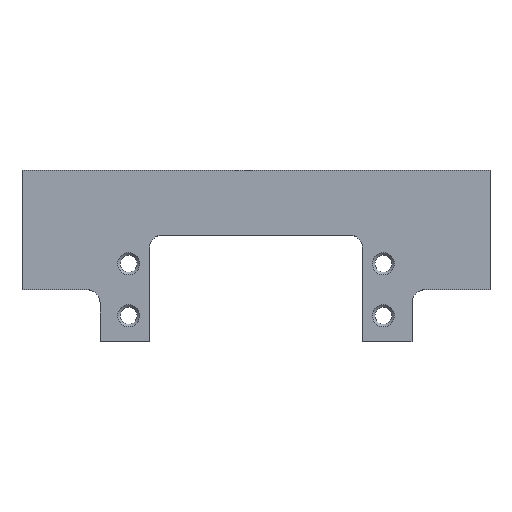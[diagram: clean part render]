
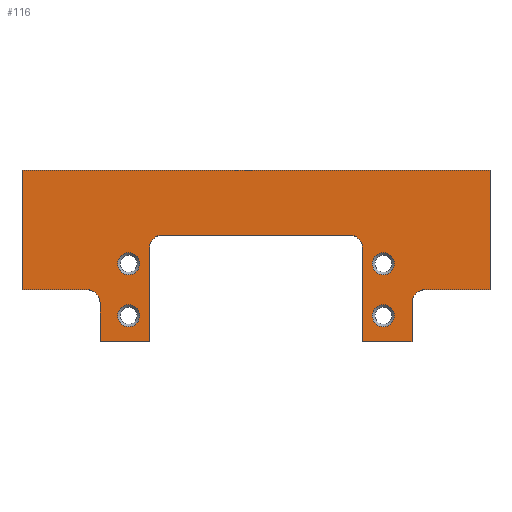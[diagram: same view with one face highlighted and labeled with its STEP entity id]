
A CAD part, top view. The second image highlights one B-rep face of the part: STEP entity #116.
In plain terms, the highlighted planar face has unit normal (0, 0, 1).
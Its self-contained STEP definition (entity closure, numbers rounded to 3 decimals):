
#116=ADVANCED_FACE('',(#374,#376,#378,#380,#382),#384,.T.);
#374=FACE_BOUND('',#375,.T.);
#375=EDGE_LOOP('',(#589,#590,#591,#592,#593,#594,#595,#596,#597,#598,#599,#600,#601,
#602,#603,#604));
#376=FACE_BOUND('',#377,.T.);
#377=EDGE_LOOP('',(#605));
#378=FACE_BOUND('',#379,.T.);
#379=EDGE_LOOP('',(#606));
#380=FACE_BOUND('',#381,.T.);
#381=EDGE_LOOP('',(#607));
#382=FACE_BOUND('',#383,.T.);
#383=EDGE_LOOP('',(#608));
#384=PLANE('',#385);
#385=AXIS2_PLACEMENT_3D('',#386,#387,#388);
#386=CARTESIAN_POINT('',(0.,0.,10.));
#387=DIRECTION('',(0.,0.,1.));
#388=DIRECTION('',(-1.,0.,0.));
#589=ORIENTED_EDGE('',*,*,#707,.F.);
#590=ORIENTED_EDGE('',*,*,#708,.T.);
#591=ORIENTED_EDGE('',*,*,#709,.F.);
#592=ORIENTED_EDGE('',*,*,#710,.T.);
#593=ORIENTED_EDGE('',*,*,#711,.T.);
#594=ORIENTED_EDGE('',*,*,#712,.T.);
#595=ORIENTED_EDGE('',*,*,#713,.F.);
#596=ORIENTED_EDGE('',*,*,#676,.T.);
#597=ORIENTED_EDGE('',*,*,#706,.T.);
#598=ORIENTED_EDGE('',*,*,#680,.T.);
#599=ORIENTED_EDGE('',*,*,#714,.T.);
#600=ORIENTED_EDGE('',*,*,#685,.T.);
#601=ORIENTED_EDGE('',*,*,#715,.F.);
#602=ORIENTED_EDGE('',*,*,#716,.T.);
#603=ORIENTED_EDGE('',*,*,#717,.T.);
#604=ORIENTED_EDGE('',*,*,#718,.T.);
#605=ORIENTED_EDGE('',*,*,#719,.T.);
#606=ORIENTED_EDGE('',*,*,#720,.T.);
#607=ORIENTED_EDGE('',*,*,#721,.T.);
#608=ORIENTED_EDGE('',*,*,#722,.T.);
#676=EDGE_CURVE('',#738,#742,#744,.T.);
#680=EDGE_CURVE('',#752,#750,#753,.T.);
#685=EDGE_CURVE('',#762,#760,#763,.T.);
#706=EDGE_CURVE('',#742,#752,#800,.T.);
#707=EDGE_CURVE('',#801,#802,#803,.F.);
#708=EDGE_CURVE('',#801,#804,#805,.T.);
#709=EDGE_CURVE('',#806,#804,#807,.F.);
#710=EDGE_CURVE('',#806,#808,#809,.T.);
#711=EDGE_CURVE('',#808,#810,#811,.T.);
#712=EDGE_CURVE('',#810,#812,#813,.T.);
#713=EDGE_CURVE('',#738,#812,#814,.F.);
#714=EDGE_CURVE('',#750,#762,#815,.T.);
#715=EDGE_CURVE('',#816,#760,#817,.F.);
#716=EDGE_CURVE('',#816,#818,#819,.T.);
#717=EDGE_CURVE('',#818,#820,#821,.T.);
#718=EDGE_CURVE('',#820,#802,#822,.T.);
#719=EDGE_CURVE('',#823,#823,#824,.F.);
#720=EDGE_CURVE('',#825,#825,#826,.F.);
#721=EDGE_CURVE('',#827,#827,#828,.F.);
#722=EDGE_CURVE('',#829,#829,#830,.F.);
#738=VERTEX_POINT('',#850);
#742=VERTEX_POINT('',#858);
#744=LINE('',#862,#863);
#750=VERTEX_POINT('',#875);
#752=VERTEX_POINT('',#879);
#753=LINE('',#880,#881);
#760=VERTEX_POINT('',#897);
#762=VERTEX_POINT('',#901);
#763=LINE('',#902,#903);
#800=LINE('',#990,#991);
#801=VERTEX_POINT('',#993);
#802=VERTEX_POINT('',#994);
#803=CIRCLE('',#995,2.5);
#804=VERTEX_POINT('',#999);
#805=LINE('',#1000,#1001);
#806=VERTEX_POINT('',#1003);
#807=CIRCLE('',#1004,2.5);
#808=VERTEX_POINT('',#1008);
#809=LINE('',#1009,#1010);
#810=VERTEX_POINT('',#1012);
#811=LINE('',#1013,#1014);
#812=VERTEX_POINT('',#1016);
#813=LINE('',#1017,#1018);
#814=CIRCLE('',#1020,2.5);
#815=LINE('',#1024,#1025);
#816=VERTEX_POINT('',#1027);
#817=CIRCLE('',#1028,2.5);
#818=VERTEX_POINT('',#1032);
#819=LINE('',#1033,#1034);
#820=VERTEX_POINT('',#1036);
#821=LINE('',#1037,#1038);
#822=LINE('',#1040,#1041);
#823=VERTEX_POINT('',#1043);
#824=CIRCLE('',#1044,2.121);
#825=VERTEX_POINT('',#1048);
#826=CIRCLE('',#1049,2.121);
#827=VERTEX_POINT('',#1053);
#828=CIRCLE('',#1054,2.121);
#829=VERTEX_POINT('',#1058);
#830=CIRCLE('',#1059,2.121);
#850=CARTESIAN_POINT('',(32.5,0.,10.));
#858=CARTESIAN_POINT('',(45.,0.,10.));
#862=CARTESIAN_POINT('',(32.5,0.,10.));
#863=VECTOR('',#864,1.);
#864=DIRECTION('',(1.,0.,0.));
#875=CARTESIAN_POINT('',(-45.,23.,10.));
#879=CARTESIAN_POINT('',(45.,23.,10.));
#880=CARTESIAN_POINT('',(45.,23.,10.));
#881=VECTOR('',#882,1.);
#882=DIRECTION('',(-1.,0.,0.));
#897=CARTESIAN_POINT('',(-32.5,0.,10.));
#901=CARTESIAN_POINT('',(-45.,0.,10.));
#902=CARTESIAN_POINT('',(-45.,0.,10.));
#903=VECTOR('',#904,1.);
#904=DIRECTION('',(1.,0.,0.));
#990=CARTESIAN_POINT('',(45.,0.,10.));
#991=VECTOR('',#992,1.);
#992=DIRECTION('',(0.,1.,0.));
#993=CARTESIAN_POINT('',(-18.,10.5,10.));
#994=CARTESIAN_POINT('',(-20.5,8.,10.));
#995=AXIS2_PLACEMENT_3D('',#996,#997,#998);
#996=CARTESIAN_POINT('',(-18.,8.,10.));
#997=DIRECTION('',(0.,0.,-1.));
#998=DIRECTION('',(-1.,0.,0.));
#999=CARTESIAN_POINT('',(18.,10.5,10.));
#1000=CARTESIAN_POINT('',(-18.,10.5,10.));
#1001=VECTOR('',#1002,1.);
#1002=DIRECTION('',(1.,0.,0.));
#1003=CARTESIAN_POINT('',(20.5,8.,10.));
#1004=AXIS2_PLACEMENT_3D('',#1005,#1006,#1007);
#1005=CARTESIAN_POINT('',(18.,8.,10.));
#1006=DIRECTION('',(0.,0.,-1.));
#1007=DIRECTION('',(0.,1.,0.));
#1008=CARTESIAN_POINT('',(20.5,-10.,10.));
#1009=CARTESIAN_POINT('',(20.5,8.,10.));
#1010=VECTOR('',#1011,1.);
#1011=DIRECTION('',(0.,-1.,0.));
#1012=CARTESIAN_POINT('',(30.,-10.,10.));
#1013=CARTESIAN_POINT('',(20.5,-10.,10.));
#1014=VECTOR('',#1015,1.);
#1015=DIRECTION('',(1.,0.,0.));
#1016=CARTESIAN_POINT('',(30.,-2.5,10.));
#1017=CARTESIAN_POINT('',(30.,-10.,10.));
#1018=VECTOR('',#1019,1.);
#1019=DIRECTION('',(0.,1.,0.));
#1020=AXIS2_PLACEMENT_3D('',#1021,#1022,#1023);
#1021=CARTESIAN_POINT('',(32.5,-2.5,10.));
#1022=DIRECTION('',(0.,0.,-1.));
#1023=DIRECTION('',(-1.,0.,0.));
#1024=CARTESIAN_POINT('',(-45.,23.,10.));
#1025=VECTOR('',#1026,1.);
#1026=DIRECTION('',(0.,-1.,0.));
#1027=CARTESIAN_POINT('',(-30.,-2.5,10.));
#1028=AXIS2_PLACEMENT_3D('',#1029,#1030,#1031);
#1029=CARTESIAN_POINT('',(-32.5,-2.5,10.));
#1030=DIRECTION('',(0.,0.,-1.));
#1031=DIRECTION('',(0.,1.,0.));
#1032=CARTESIAN_POINT('',(-30.,-10.,10.));
#1033=CARTESIAN_POINT('',(-30.,-2.5,10.));
#1034=VECTOR('',#1035,1.);
#1035=DIRECTION('',(0.,-1.,0.));
#1036=CARTESIAN_POINT('',(-20.5,-10.,10.));
#1037=CARTESIAN_POINT('',(-30.,-10.,10.));
#1038=VECTOR('',#1039,1.);
#1039=DIRECTION('',(1.,0.,0.));
#1040=CARTESIAN_POINT('',(-20.5,-10.,10.));
#1041=VECTOR('',#1042,1.);
#1042=DIRECTION('',(0.,1.,0.));
#1043=CARTESIAN_POINT('',(-26.621,-5.,10.));
#1044=AXIS2_PLACEMENT_3D('',#1045,#1046,#1047);
#1045=CARTESIAN_POINT('',(-24.5,-5.,10.));
#1046=DIRECTION('',(0.,0.,1.));
#1047=DIRECTION('',(-1.,0.,0.));
#1048=CARTESIAN_POINT('',(22.379,5.,10.));
#1049=AXIS2_PLACEMENT_3D('',#1050,#1051,#1052);
#1050=CARTESIAN_POINT('',(24.5,5.,10.));
#1051=DIRECTION('',(0.,0.,1.));
#1052=DIRECTION('',(-1.,0.,0.));
#1053=CARTESIAN_POINT('',(-26.621,5.,10.));
#1054=AXIS2_PLACEMENT_3D('',#1055,#1056,#1057);
#1055=CARTESIAN_POINT('',(-24.5,5.,10.));
#1056=DIRECTION('',(0.,0.,1.));
#1057=DIRECTION('',(-1.,0.,0.));
#1058=CARTESIAN_POINT('',(22.379,-5.,10.));
#1059=AXIS2_PLACEMENT_3D('',#1060,#1061,#1062);
#1060=CARTESIAN_POINT('',(24.5,-5.,10.));
#1061=DIRECTION('',(0.,0.,1.));
#1062=DIRECTION('',(-1.,0.,0.));
